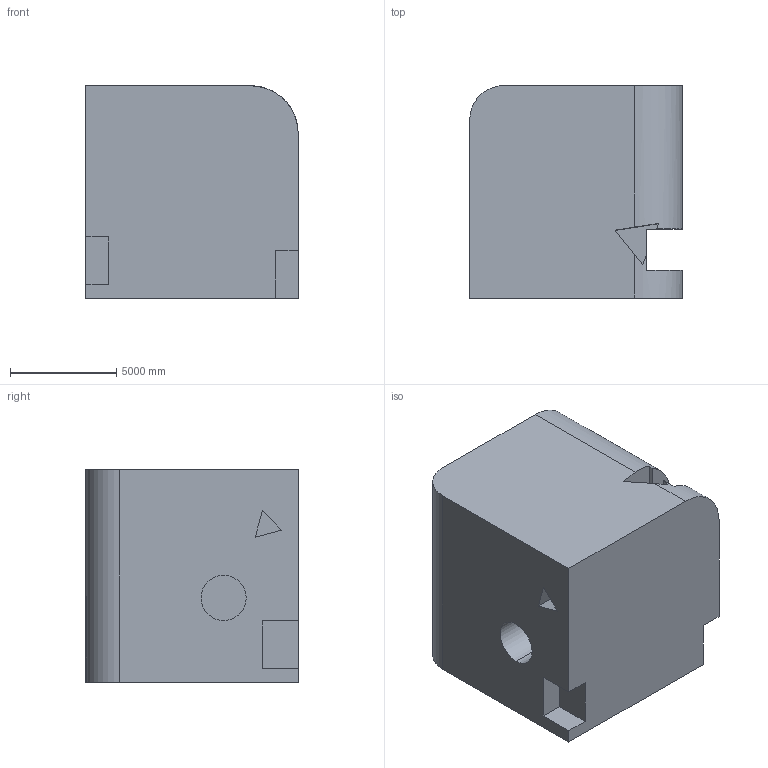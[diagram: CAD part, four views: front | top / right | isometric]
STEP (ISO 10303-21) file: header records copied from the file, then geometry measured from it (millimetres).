
FILE_DESCRIPTION (( 'STEP AP203' ), '1' );
FILE_NAME ('1813.STEP', '2022-08-26T14:21:23', ( 'user' ), ( '' ), 'SwSTEP 2.0', 'SolidWorks 2021', '' );
FILE_SCHEMA (( 'CONFIG_CONTROL_DESIGN' ));
Length unit declared in the file: centimetre
Products named in the file (1): 1813
Bounding box: 10000 x 10000 x 10000 mm (x, y, z)
Volume: 908855120646.4 mm3; surface area: 685362657.2 mm2
Topology: 1 solids, 1 shells, 35 faces, 93 edges, 62 vertices
Faces by surface type: plane 30, cylinder 5
Entity records: 1155 total; most frequent: CARTESIAN_POINT 203, ORIENTED_EDGE 186, DIRECTION 172, EDGE_CURVE 93, LINE 78, VECTOR 78, VERTEX_POINT 62, AXIS2_PLACEMENT_3D 47
